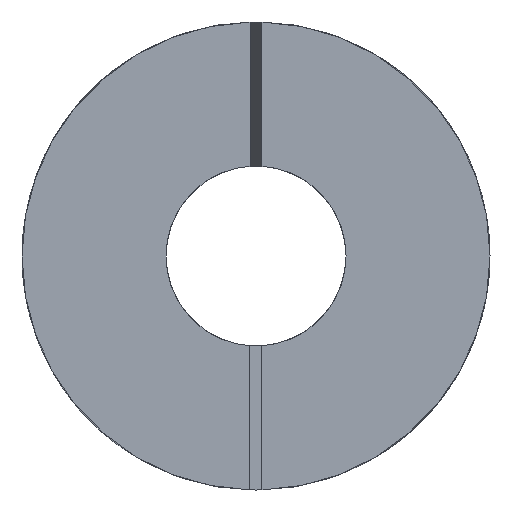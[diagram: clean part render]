
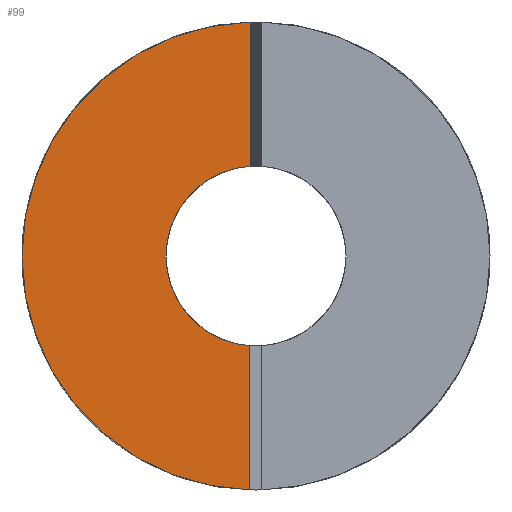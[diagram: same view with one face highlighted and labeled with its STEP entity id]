
A CAD part, left-side view. The second image highlights one B-rep face of the part: STEP entity #99.
In plain terms, the highlighted planar face has unit normal (-1, 0, 0).
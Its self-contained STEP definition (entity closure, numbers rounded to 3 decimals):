
#99=ADVANCED_FACE('',(#1025),#1061,.T.);
#373=EDGE_CURVE('',#378,#379,#374,.T.);
#374=LINE('',#375,#376);
#375=CARTESIAN_POINT('',(-28.,0.5,
   -7.483));
#376=VECTOR('',#377,1.);
#377=DIRECTION('',(0.,0.,
   -1.));
#378=VERTEX_POINT('',#380);
#379=VERTEX_POINT('',#381);
#380=CARTESIAN_POINT('',(-28.,0.5,
   -7.483));
#381=CARTESIAN_POINT('',(-28.,0.5,
   -19.494));
#1025=FACE_OUTER_BOUND('',#1026,.T.);
#1026=EDGE_LOOP('',(#1027,#1028,#1029,#1030,#1031));
#1027=ORIENTED_EDGE('',*,*,#1032,.T.);
#1028=ORIENTED_EDGE('',*,*,#1040,.T.);
#1029=ORIENTED_EDGE('',*,*,#1048,.F.);
#1030=ORIENTED_EDGE('',*,*,#1055,.T.);
#1031=ORIENTED_EDGE('',*,*,#373,.F.);
#1032=EDGE_CURVE('',#378,#1038,#1033,.T.);
#1033=CIRCLE('',#1034,7.5);
#1034=AXIS2_PLACEMENT_3D('',#1035,#1036,#1037);
#1035=CARTESIAN_POINT('',(-28.,0.,
   0.));
#1036=DIRECTION('',(1.,0.,0.));
#1037=DIRECTION('',(0.,-1.,0.));
#1038=VERTEX_POINT('',#1039);
#1039=CARTESIAN_POINT('',(-28.,7.5,0.));
#1040=EDGE_CURVE('',#1038,#1046,#1041,.T.);
#1041=CIRCLE('',#1042,7.5);
#1042=AXIS2_PLACEMENT_3D('',#1043,#1044,#1045);
#1043=CARTESIAN_POINT('',(-28.,0.,
   0.));
#1044=DIRECTION('',(1.,0.,0.));
#1045=DIRECTION('',(0.,-1.,0.));
#1046=VERTEX_POINT('',#1047);
#1047=CARTESIAN_POINT('',(-28.,0.5,
   7.483));
#1048=EDGE_CURVE('',#1053,#1046,#1049,.T.);
#1049=LINE('',#1050,#1051);
#1050=CARTESIAN_POINT('',(-28.,0.5,19.5));
#1051=VECTOR('',#1052,1.);
#1052=DIRECTION('',(0.,0.,-1.));
#1053=VERTEX_POINT('',#1054);
#1054=CARTESIAN_POINT('',(-28.,0.5,
   19.494));
#1055=EDGE_CURVE('',#1053,#379,#1056,.T.);
#1056=CIRCLE('',#1057,19.5);
#1057=AXIS2_PLACEMENT_3D('',#1058,#1059,#1060);
#1058=CARTESIAN_POINT('',(-28.,0.,0.));
#1059=DIRECTION('',(-1.,0.,0.));
#1060=DIRECTION('',(0.,1.,0.));
#1061=PLANE('',#1062);
#1062=AXIS2_PLACEMENT_3D('',#1063,#1064,#1065);
#1063=CARTESIAN_POINT('',(-28.,0.,0.));
#1064=DIRECTION('',(-1.,0.,0.));
#1065=DIRECTION('',(0.,-1.,0.));
